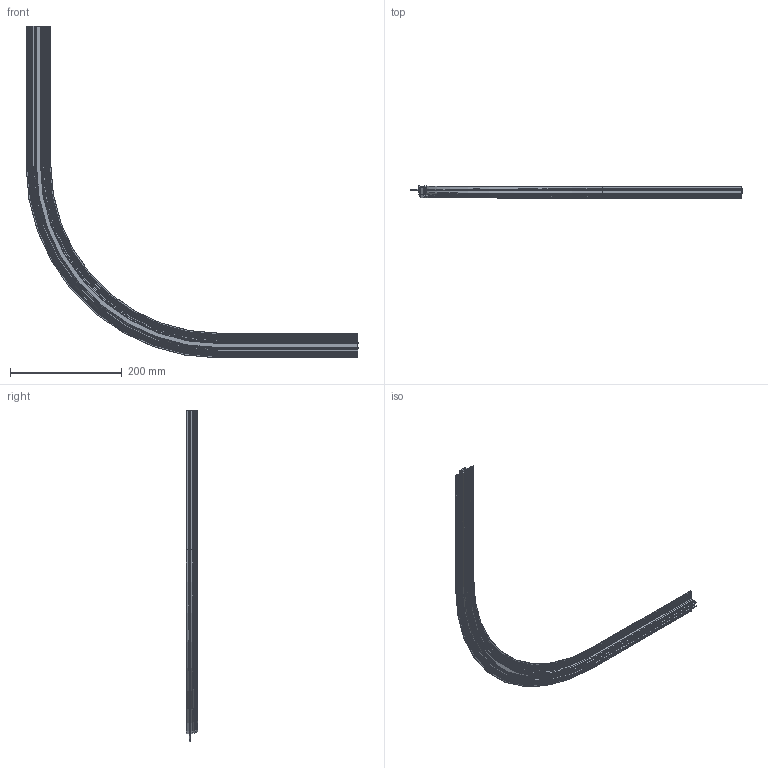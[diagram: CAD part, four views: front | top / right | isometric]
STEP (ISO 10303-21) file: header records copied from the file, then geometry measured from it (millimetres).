
FILE_DESCRIPTION (( 'STEP AP203' ), '1' );
FILE_NAME ('17.M07EC0690 Curved A.STEP', '2025-08-04T04:04:23', ( '' ), ( '' ), 'SwSTEP 2.0', 'SolidWorks 2020', '' );
FILE_SCHEMA (( 'CONFIG_CONTROL_DESIGN' ));
Length unit declared in the file: millimetre
Products named in the file (4): 寢耋1-1; 17.M07EC0690 Curved A; 寢耋2-2; 17.M07EC0690 Curved A.stp
Assembly tree (3 placements, depth 2):
  17.M07EC0690 Curved A
    17.M07EC0690 Curved A.stp
    寢耋1-1
    寢耋2-2
Bounding box: 594.5 x 20.7 x 594.5 mm (x, y, z)
Volume: 176138 mm3; surface area: 249431.1 mm2
Topology: 7 solids, 7 shells, 572 faces, 1334 edges, 776 vertices
Faces by surface type: plane 266, cylinder 160, cone 84, torus 62
Entity records: 16346 total; most frequent: DIRECTION 2932, CARTESIAN_POINT 2688, ORIENTED_EDGE 2668, EDGE_CURVE 1334, AXIS2_PLACEMENT_3D 1020, LINE 892, VECTOR 892, VERTEX_POINT 776
